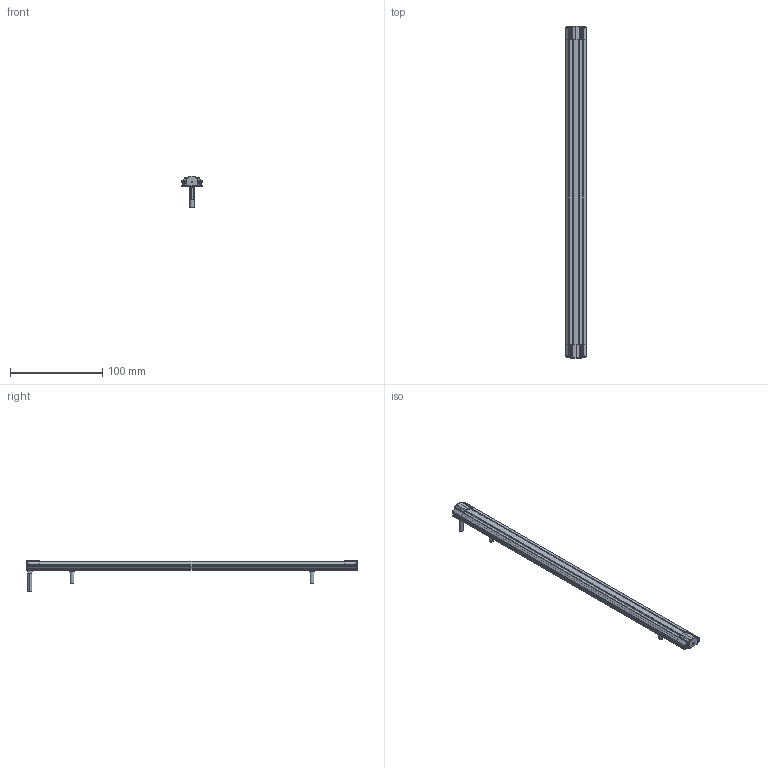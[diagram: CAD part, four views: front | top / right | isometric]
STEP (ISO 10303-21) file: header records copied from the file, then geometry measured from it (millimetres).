
FILE_DESCRIPTION (( 'STEP AP214' ), '1' );
FILE_NAME ('ILGA-B-K1a-0360mm.STEP', '2026-04-24T22:52:00', ( '' ), ( '' ), 'SwSTEP 2.0', 'SolidWorks 2025', '' );
FILE_SCHEMA (( 'AUTOMOTIVE_DESIGN' ));
Length unit declared in the file: millimetre
Products named in the file (1): ILGA-B-K1a-0360mm
Bounding box: 22.4 x 360 x 34.2 mm (x, y, z)
Volume: 29810.2 mm3; surface area: 50562.4 mm2
Topology: 11 solids, 11 shells, 710 faces, 1834 edges, 1122 vertices
Faces by surface type: plane 308, cylinder 262, cone 56, torus 44, bspline 24, sphere 16
Entity records: 29731 total; most frequent: CARTESIAN_POINT 4567, DIRECTION 3758, ORIENTED_EDGE 3580, EDGE_CURVE 1790, AXIS2_PLACEMENT_3D 1401, VERTEX_POINT 1122, VECTOR 956, LINE 956
